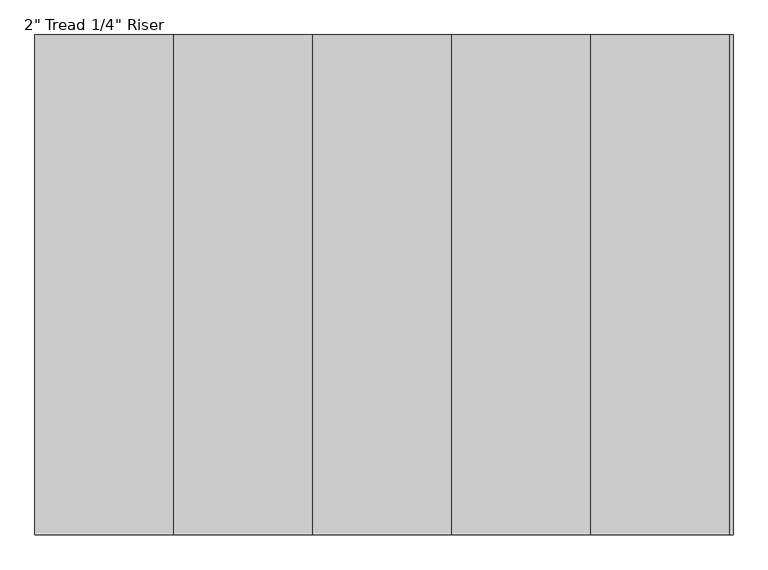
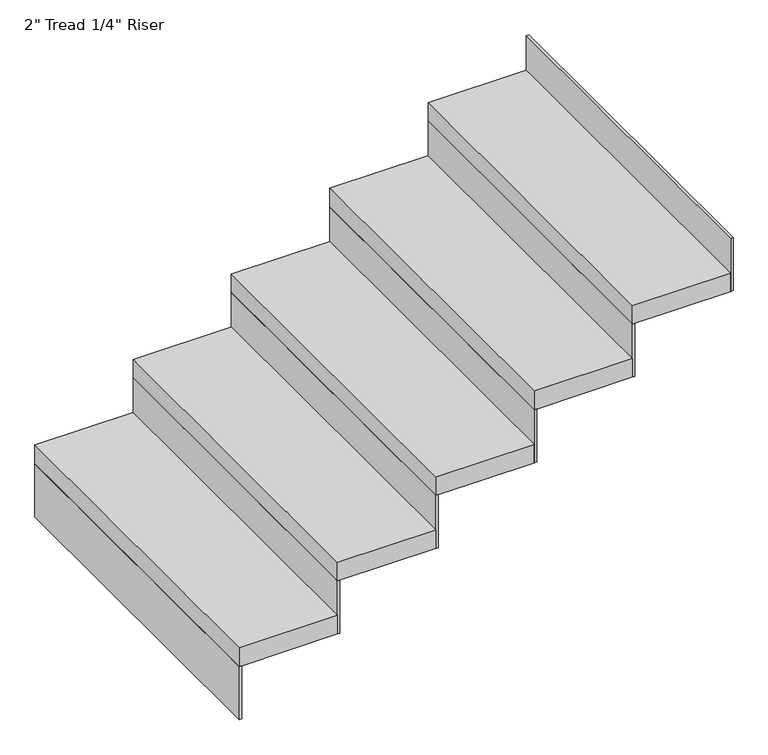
"""IFC4 building model written with IfcOpenShell, lengths in millimetres: stair flight geometry."""

from ifc_helpers import new_model, si_unit, frame, origin, place, context, project, spatial, polyline, outline, extrude, source, transform, mapped, element, save


def stair_flight_47092819(model_context):
    return source(origin(), model_context, "Body", "SweptSolid", [
        extrude(outline(polyline([(114029.2382982, 33927.1265585), (114022.8882982, 33927.1265585), (114022.8882982, 34841.5265585), (114029.2382982, 34841.5265585), (114029.2382982, 33927.1265585)])), frame((0.0, 0.0, 2126.3428571), z_axis=(0.0, 0.0, 1.0), x_axis=(1.0, 0.0, 0.0)), (0.0, 0.0, 1.0), 145.1428571),
        extrude(outline(polyline([(114276.8882982, 34841.5265585), (114276.8882982, 33927.1265585), (114022.8882982, 33927.1265585), (114022.8882982, 34841.5265585), (114276.8882982, 34841.5265585)])), frame((0.0, 0.0, 2271.4857143), z_axis=(0.0, 0.0, 1.0), x_axis=(1.0, 0.0, 0.0)), (0.0, 0.0, 1.0), 50.8),
        extrude(outline(polyline([(114283.2382982, 33927.1265585), (114276.8882982, 33927.1265585), (114276.8882982, 34841.5265585), (114283.2382982, 34841.5265585), (114283.2382982, 33927.1265585)])), frame((0.0, 0.0, 2271.4857143), z_axis=(0.0, 0.0, 1.0), x_axis=(1.0, 0.0, 0.0)), (0.0, 0.0, 1.0), 145.1428571),
        extrude(outline(polyline([(114530.8882982, 34841.5265585), (114530.8882982, 33927.1265585), (114276.8882982, 33927.1265585), (114276.8882982, 34841.5265585), (114530.8882982, 34841.5265585)])), frame((0.0, 0.0, 2416.6285714), z_axis=(0.0, 0.0, 1.0), x_axis=(1.0, 0.0, 0.0)), (0.0, 0.0, 1.0), 50.8),
        extrude(outline(polyline([(114537.2382982, 33927.1265585), (114530.8882982, 33927.1265585), (114530.8882982, 34841.5265585), (114537.2382982, 34841.5265585), (114537.2382982, 33927.1265585)])), frame((0.0, 0.0, 2416.6285714), z_axis=(0.0, 0.0, 1.0), x_axis=(1.0, 0.0, 0.0)), (0.0, 0.0, 1.0), 145.1428571),
        extrude(outline(polyline([(114784.8882982, 34841.5265585), (114784.8882982, 33927.1265585), (114530.8882982, 33927.1265585), (114530.8882982, 34841.5265585), (114784.8882982, 34841.5265585)])), frame((0.0, 0.0, 2561.7714286), z_axis=(0.0, 0.0, 1.0), x_axis=(1.0, 0.0, 0.0)), (0.0, 0.0, 1.0), 50.8),
        extrude(outline(polyline([(114791.2382982, 33927.1265585), (114784.8882982, 33927.1265585), (114784.8882982, 34841.5265585), (114791.2382982, 34841.5265585), (114791.2382982, 33927.1265585)])), frame((0.0, 0.0, 2561.7714286), z_axis=(0.0, 0.0, 1.0), x_axis=(1.0, 0.0, 0.0)), (0.0, 0.0, 1.0), 145.1428571),
        extrude(outline(polyline([(115038.8882982, 34841.5265585), (115038.8882982, 33927.1265585), (114784.8882982, 33927.1265585), (114784.8882982, 34841.5265585), (115038.8882982, 34841.5265585)])), frame((0.0, 0.0, 2706.9142857), z_axis=(0.0, 0.0, 1.0), x_axis=(1.0, 0.0, 0.0)), (0.0, 0.0, 1.0), 50.8),
        extrude(outline(polyline([(115045.2382982, 33927.1265585), (115038.8882982, 33927.1265585), (115038.8882982, 34841.5265585), (115045.2382982, 34841.5265585), (115045.2382982, 33927.1265585)])), frame((0.0, 0.0, 2706.9142857), z_axis=(0.0, 0.0, 1.0), x_axis=(1.0, 0.0, 0.0)), (0.0, 0.0, 1.0), 145.1428571),
        extrude(outline(polyline([(115299.2382982, 33927.1265585), (115292.8882982, 33927.1265585), (115292.8882982, 34841.5265585), (115299.2382982, 34841.5265585), (115299.2382982, 33927.1265585)])), frame((0.0, 0.0, 2852.0571429), z_axis=(0.0, 0.0, 1.0), x_axis=(1.0, 0.0, 0.0)), (0.0, 0.0, 1.0), 145.1428571),
        extrude(outline(polyline([(115292.8882982, 34841.5265585), (115292.8882982, 33927.1265585), (115038.8882982, 33927.1265585), (115038.8882982, 34841.5265585), (115292.8882982, 34841.5265585)])), frame((0.0, 0.0, 2852.0571429), z_axis=(0.0, 0.0, 1.0), x_axis=(1.0, 0.0, 0.0)), (0.0, 0.0, 1.0), 50.8),
    ])


if __name__ == "__main__":
    model = new_model("IFC4")
    model_context = context("Model", 3, world=origin())
    ifc_project = project(units=[si_unit("LENGTHUNIT", "METRE", prefix="MILLI")], contexts=[model_context])
    site = spatial("IfcSite", under=ifc_project)
    building = spatial("IfcBuilding", under=site)
    placement = place(None, origin())
    stair_flight_shape = stair_flight_47092819(model_context)
    element("IfcStairFlight", 1, ObjectType="2\" Tread 1/4\" Riser", at=placement, inside=building, context=model_context, shape_type="MappedRepresentation", body=[
        mapped(stair_flight_shape, transform((0.0, 0.0, 0.0), x_axis=(1.0, 0.0, 0.0), y_axis=(0.0, 1.0, 0.0), z_axis=(0.0, 0.0, 1.0))),
    ])
    save(model, "model.ifc")
